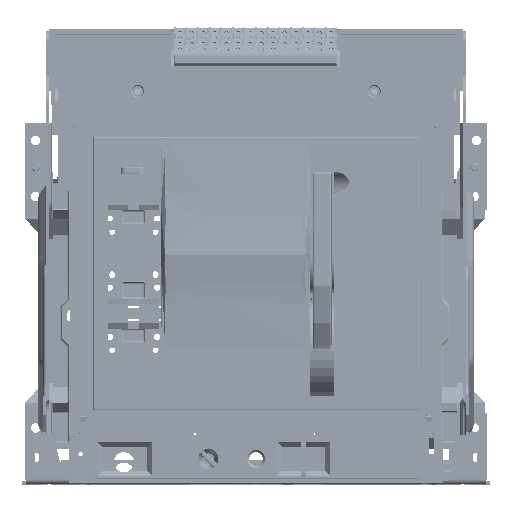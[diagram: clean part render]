
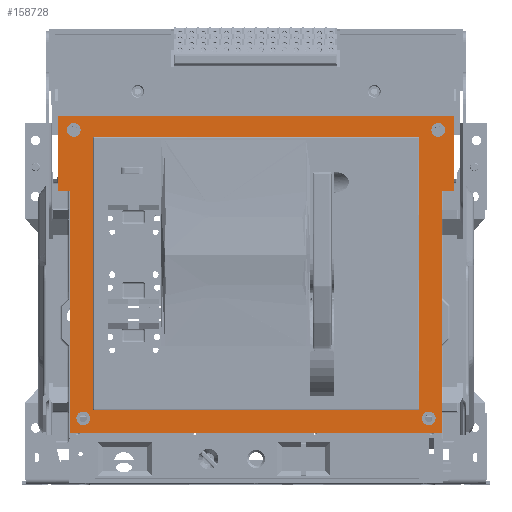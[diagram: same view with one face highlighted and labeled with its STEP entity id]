
A CAD part, top view. The second image highlights one B-rep face of the part: STEP entity #158728.
In plain terms, the highlighted planar face has unit normal (0, 0, 1) as drawn and (0, -1, 0) by its records, which use the part's own axes.
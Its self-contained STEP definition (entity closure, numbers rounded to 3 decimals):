
#146702=CARTESIAN_POINT('',(-153.5,44.,-139.));
#146703=DIRECTION('',(0.,1.,0.));
#146704=DIRECTION('',(0.,0.,-1.));
#146705=AXIS2_PLACEMENT_3D('',#146702,#146703,#146704);
#146717=DIRECTION('',(-1.,0.,0.));
#146718=VECTOR('',#146717,307.);
#146719=CARTESIAN_POINT('',(153.5,44.,-139.5));
#146720=LINE('',#146719,#146718);
#146776=DIRECTION('',(0.,0.,-1.));
#146777=VECTOR('',#146776,257.);
#146778=CARTESIAN_POINT('',(154.,44.,118.));
#146779=LINE('',#146778,#146777);
#146805=CARTESIAN_POINT('',(153.5,44.,118.));
#146806=DIRECTION('',(0.,1.,0.));
#146807=DIRECTION('',(0.,0.,1.));
#146808=AXIS2_PLACEMENT_3D('',#146805,#146806,#146807);
#146884=DIRECTION('',(0.,0.,1.));
#146885=VECTOR('',#146884,257.);
#146886=CARTESIAN_POINT('',(-154.,44.,-139.));
#146887=LINE('',#146886,#146885);
#146891=CARTESIAN_POINT('',(163.5,44.,126.5));
#146892=DIRECTION('',(0.,-1.,0.));
#146893=DIRECTION('',(-1.,0.,0.));
#146894=AXIS2_PLACEMENT_3D('',#146891,#146892,#146893);
#146899=CARTESIAN_POINT('',(163.5,44.,126.5));
#146900=DIRECTION('',(0.,-1.,0.));
#146901=DIRECTION('',(1.,0.,0.));
#146902=AXIS2_PLACEMENT_3D('',#146899,#146900,#146901);
#146907=CARTESIAN_POINT('',(-163.5,44.,126.5));
#146908=DIRECTION('',(0.,-1.,0.));
#146909=DIRECTION('',(-1.,0.,0.));
#146910=AXIS2_PLACEMENT_3D('',#146907,#146908,#146909);
#146915=CARTESIAN_POINT('',(-163.5,44.,126.5));
#146916=DIRECTION('',(0.,-1.,0.));
#146917=DIRECTION('',(1.,0.,0.));
#146918=AXIS2_PLACEMENT_3D('',#146915,#146916,#146917);
#146923=CARTESIAN_POINT('',(-172.5,44.,-146.5));
#146924=DIRECTION('',(0.,-1.,0.));
#146925=DIRECTION('',(-1.,0.,0.));
#146926=AXIS2_PLACEMENT_3D('',#146923,#146924,#146925);
#146931=CARTESIAN_POINT('',(-172.5,44.,-146.5));
#146932=DIRECTION('',(0.,-1.,0.));
#146933=DIRECTION('',(1.,0.,0.));
#146934=AXIS2_PLACEMENT_3D('',#146931,#146932,#146933);
#146939=CARTESIAN_POINT('',(172.5,44.,-146.5));
#146940=DIRECTION('',(0.,-1.,0.));
#146941=DIRECTION('',(-1.,0.,0.));
#146942=AXIS2_PLACEMENT_3D('',#146939,#146940,#146941);
#146947=CARTESIAN_POINT('',(172.5,44.,-146.5));
#146948=DIRECTION('',(0.,-1.,0.));
#146949=DIRECTION('',(1.,0.,0.));
#146950=AXIS2_PLACEMENT_3D('',#146947,#146948,#146949);
#146955=DIRECTION('',(0.,0.,1.));
#146956=VECTOR('',#146955,229.);
#146957=CARTESIAN_POINT('',(-176.,44.,-89.));
#146958=LINE('',#146957,#146956);
#146962=DIRECTION('',(0.,0.,-1.));
#146963=VECTOR('',#146962,229.);
#146964=CARTESIAN_POINT('',(176.,44.,140.));
#146965=LINE('',#146964,#146963);
#146969=DIRECTION('',(-1.,0.,0.));
#146970=VECTOR('',#146969,11.);
#146971=CARTESIAN_POINT('',(187.,44.,-89.));
#146972=LINE('',#146971,#146970);
#146976=DIRECTION('',(0.,0.,1.));
#146977=VECTOR('',#146976,71.);
#146978=CARTESIAN_POINT('',(187.,44.,-160.));
#146979=LINE('',#146978,#146977);
#146983=DIRECTION('',(1.,0.,0.));
#146984=VECTOR('',#146983,374.);
#146985=CARTESIAN_POINT('',(-187.,44.,-160.));
#146986=LINE('',#146985,#146984);
#146990=DIRECTION('',(0.,0.,-1.));
#146991=VECTOR('',#146990,71.);
#146992=CARTESIAN_POINT('',(-187.,44.,-89.));
#146993=LINE('',#146992,#146991);
#146997=DIRECTION('',(-1.,0.,0.));
#146998=VECTOR('',#146997,11.);
#146999=CARTESIAN_POINT('',(-176.,44.,-89.));
#147000=LINE('',#146999,#146998);
#150332=DIRECTION('',(1.,0.,0.));
#150333=VECTOR('',#150332,352.);
#150334=CARTESIAN_POINT('',(-176.,44.,140.));
#150335=LINE('',#150334,#150333);
#153013=CARTESIAN_POINT('',(153.5,44.,-139.));
#153014=DIRECTION('',(0.,1.,0.));
#153015=DIRECTION('',(1.,0.,0.));
#153016=AXIS2_PLACEMENT_3D('',#153013,#153014,#153015);
#153021=DIRECTION('',(-1.,0.,0.));
#153022=VECTOR('',#153021,307.);
#153023=CARTESIAN_POINT('',(153.5,44.,118.5));
#153024=LINE('',#153023,#153022);
#153035=CARTESIAN_POINT('',(-153.5,44.,118.));
#153036=DIRECTION('',(0.,1.,0.));
#153037=DIRECTION('',(-1.,0.,0.));
#153038=AXIS2_PLACEMENT_3D('',#153035,#153036,#153037);
#153251=CARTESIAN_POINT('',(-187.,44.,-89.));
#153252=CARTESIAN_POINT('',(-187.,44.,-160.));
#153253=VERTEX_POINT('',#153251);
#153254=VERTEX_POINT('',#153252);
#153255=CARTESIAN_POINT('',(187.,44.,-160.));
#153256=VERTEX_POINT('',#153255);
#153257=CARTESIAN_POINT('',(187.,44.,-89.));
#153258=VERTEX_POINT('',#153257);
#153263=CARTESIAN_POINT('',(-176.,44.,140.));
#153264=CARTESIAN_POINT('',(176.,44.,140.));
#153265=VERTEX_POINT('',#153263);
#153266=VERTEX_POINT('',#153264);
#154485=CARTESIAN_POINT('',(-176.,44.,-89.));
#154486=VERTEX_POINT('',#154485);
#154487=CARTESIAN_POINT('',(176.,44.,-89.));
#154488=VERTEX_POINT('',#154487);
#154627=CARTESIAN_POINT('',(-179.,44.,-146.5));
#154628=CARTESIAN_POINT('',(-166.,44.,-146.5));
#154629=VERTEX_POINT('',#154627);
#154630=VERTEX_POINT('',#154628);
#154631=CARTESIAN_POINT('',(166.,44.,-146.5));
#154632=CARTESIAN_POINT('',(179.,44.,-146.5));
#154633=VERTEX_POINT('',#154631);
#154634=VERTEX_POINT('',#154632);
#154635=CARTESIAN_POINT('',(-170.,44.,126.5));
#154636=CARTESIAN_POINT('',(-157.,44.,126.5));
#154637=VERTEX_POINT('',#154635);
#154638=VERTEX_POINT('',#154636);
#154639=CARTESIAN_POINT('',(157.,44.,126.5));
#154640=CARTESIAN_POINT('',(170.,44.,126.5));
#154641=VERTEX_POINT('',#154639);
#154642=VERTEX_POINT('',#154640);
#154911=CARTESIAN_POINT('',(154.,44.,118.));
#154913=VERTEX_POINT('',#154911);
#154915=CARTESIAN_POINT('',(153.5,44.,118.5));
#154917=VERTEX_POINT('',#154915);
#154924=CARTESIAN_POINT('',(153.5,44.,-139.5));
#154926=VERTEX_POINT('',#154924);
#154928=CARTESIAN_POINT('',(154.,44.,-139.));
#154929=VERTEX_POINT('',#154928);
#154930=CARTESIAN_POINT('',(-153.5,44.,118.5));
#154931=VERTEX_POINT('',#154930);
#154932=CARTESIAN_POINT('',(-154.,44.,-139.));
#154933=CARTESIAN_POINT('',(-154.,44.,118.));
#154934=VERTEX_POINT('',#154932);
#154935=VERTEX_POINT('',#154933);
#154936=CARTESIAN_POINT('',(-153.5,44.,-139.5));
#154937=VERTEX_POINT('',#154936);
#158668=CARTESIAN_POINT('',(0.,44.,0.));
#158669=DIRECTION('',(0.,-1.,0.));
#158670=DIRECTION('',(0.,0.,-1.));
#158671=AXIS2_PLACEMENT_3D('',#158668,#158669,#158670);
#158672=PLANE('',#158671);
#158674=ORIENTED_EDGE('',*,*,#158673,.T.);
#158676=ORIENTED_EDGE('',*,*,#158675,.T.);
#158678=ORIENTED_EDGE('',*,*,#158677,.T.);
#158680=ORIENTED_EDGE('',*,*,#158679,.F.);
#158682=ORIENTED_EDGE('',*,*,#158681,.F.);
#158684=ORIENTED_EDGE('',*,*,#158683,.F.);
#158686=ORIENTED_EDGE('',*,*,#158685,.F.);
#158688=ORIENTED_EDGE('',*,*,#158687,.F.);
#158689=EDGE_LOOP('',(#158674,#158676,#158678,#158680,#158682,#158684,#158686,
#158688));
#158690=FACE_OUTER_BOUND('',#158689,.F.);
#158692=ORIENTED_EDGE('',*,*,#158691,.T.);
#158694=ORIENTED_EDGE('',*,*,#158693,.T.);
#158695=EDGE_LOOP('',(#158692,#158694));
#158696=FACE_BOUND('',#158695,.F.);
#158698=ORIENTED_EDGE('',*,*,#158697,.T.);
#158700=ORIENTED_EDGE('',*,*,#158699,.T.);
#158701=EDGE_LOOP('',(#158698,#158700));
#158702=FACE_BOUND('',#158701,.F.);
#158704=ORIENTED_EDGE('',*,*,#158703,.T.);
#158706=ORIENTED_EDGE('',*,*,#158705,.T.);
#158707=EDGE_LOOP('',(#158704,#158706));
#158708=FACE_BOUND('',#158707,.F.);
#158710=ORIENTED_EDGE('',*,*,#158709,.T.);
#158712=ORIENTED_EDGE('',*,*,#158711,.T.);
#158713=EDGE_LOOP('',(#158710,#158712));
#158714=FACE_BOUND('',#158713,.F.);
#158715=ORIENTED_EDGE('',*,*,#158522,.F.);
#158717=ORIENTED_EDGE('',*,*,#158716,.F.);
#158718=ORIENTED_EDGE('',*,*,#158575,.F.);
#158719=ORIENTED_EDGE('',*,*,#158593,.F.);
#158721=ORIENTED_EDGE('',*,*,#158720,.T.);
#158723=ORIENTED_EDGE('',*,*,#158722,.F.);
#158724=ORIENTED_EDGE('',*,*,#158658,.F.);
#158725=ORIENTED_EDGE('',*,*,#158506,.F.);
#158726=EDGE_LOOP('',(#158715,#158717,#158718,#158719,#158721,#158723,#158724,
#158725));
#158727=FACE_BOUND('',#158726,.F.);
#158728=ADVANCED_FACE('',(#158690,#158696,#158702,#158708,#158714,#158727),
#158672,.T.);
#146706=CIRCLE('',#146705,0.5);
#146809=CIRCLE('',#146808,0.5);
#146895=CIRCLE('',#146894,6.5);
#146903=CIRCLE('',#146902,6.5);
#146911=CIRCLE('',#146910,6.5);
#146919=CIRCLE('',#146918,6.5);
#146927=CIRCLE('',#146926,6.5);
#146935=CIRCLE('',#146934,6.5);
#146943=CIRCLE('',#146942,6.5);
#146951=CIRCLE('',#146950,6.5);
#153017=CIRCLE('',#153016,0.5);
#153039=CIRCLE('',#153038,0.5);
#158506=EDGE_CURVE('',#154937,#154934,#146706,.T.);
#158522=EDGE_CURVE('',#154926,#154937,#146720,.T.);
#158575=EDGE_CURVE('',#154913,#154929,#146779,.T.);
#158593=EDGE_CURVE('',#154917,#154913,#146809,.T.);
#158658=EDGE_CURVE('',#154934,#154935,#146887,.T.);
#158673=EDGE_CURVE('',#154486,#153265,#146958,.T.);
#158675=EDGE_CURVE('',#153265,#153266,#150335,.T.);
#158677=EDGE_CURVE('',#153266,#154488,#146965,.T.);
#158679=EDGE_CURVE('',#153258,#154488,#146972,.T.);
#158681=EDGE_CURVE('',#153256,#153258,#146979,.T.);
#158683=EDGE_CURVE('',#153254,#153256,#146986,.T.);
#158685=EDGE_CURVE('',#153253,#153254,#146993,.T.);
#158687=EDGE_CURVE('',#154486,#153253,#147000,.T.);
#158691=EDGE_CURVE('',#154637,#154638,#146911,.T.);
#158693=EDGE_CURVE('',#154638,#154637,#146919,.T.);
#158697=EDGE_CURVE('',#154629,#154630,#146927,.T.);
#158699=EDGE_CURVE('',#154630,#154629,#146935,.T.);
#158703=EDGE_CURVE('',#154633,#154634,#146943,.T.);
#158705=EDGE_CURVE('',#154634,#154633,#146951,.T.);
#158709=EDGE_CURVE('',#154641,#154642,#146895,.T.);
#158711=EDGE_CURVE('',#154642,#154641,#146903,.T.);
#158716=EDGE_CURVE('',#154929,#154926,#153017,.T.);
#158720=EDGE_CURVE('',#154917,#154931,#153024,.T.);
#158722=EDGE_CURVE('',#154935,#154931,#153039,.T.);
